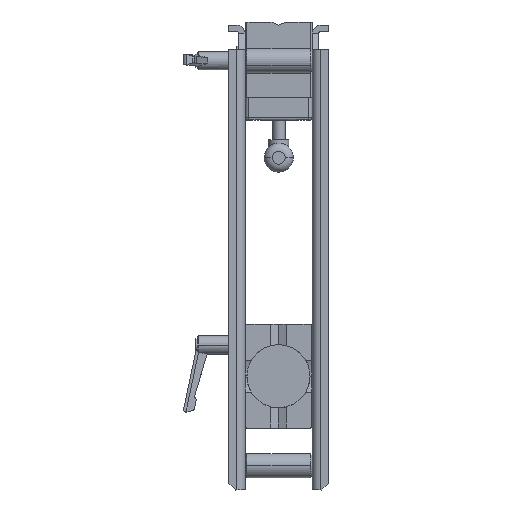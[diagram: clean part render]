
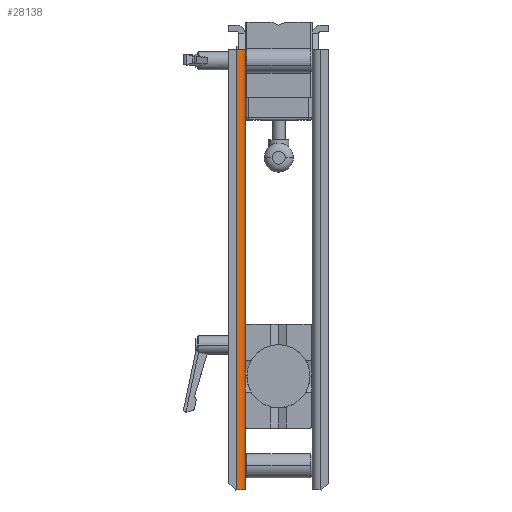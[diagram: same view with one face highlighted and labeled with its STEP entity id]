
A CAD part, left-side view. The second image highlights one B-rep face of the part: STEP entity #28138.
In plain terms, the highlighted cylindrical face has radius 5 mm (diameter 10 mm), a partial arc.
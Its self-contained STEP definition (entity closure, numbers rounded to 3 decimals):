
#6843 = CARTESIAN_POINT ( 'NONE',  ( 0., 34.26, -15. ) ) ;
#7033 = CARTESIAN_POINT ( 'NONE',  ( 5., 29.26, -15. ) ) ;
#7341 = CARTESIAN_POINT ( 'NONE',  ( 5., 29.26, -287. ) ) ;
#7349 = CIRCLE ( 'NONE', #30699, 5. ) ;
#7353 = CIRCLE ( 'NONE', #30654, 5. ) ;
#7358 = VECTOR ( 'NONE', #21739, 1000. ) ;
#7360 = LINE ( 'NONE', #20556, #7358 ) ;
#7513 = LINE ( 'NONE', #21434, #7519 ) ;
#7519 = VECTOR ( 'NONE', #21304, 1000. ) ;
#11008 = EDGE_CURVE ( 'NONE', #35142, #35300, #7349, .T. ) ;
#11011 = EDGE_CURVE ( 'NONE', #34421, #34616, #7353, .T. ) ;
#11019 = EDGE_CURVE ( 'NONE', #35300, #34421, #7360, .T. ) ;
#11126 = EDGE_CURVE ( 'NONE', #34616, #35142, #7513, .T. ) ;
#20556 = CARTESIAN_POINT ( 'NONE',  ( 0., 34.26, -15. ) ) ;
#20801 = CARTESIAN_POINT ( 'NONE',  ( 5., 34.26, -287. ) ) ;
#20965 = DIRECTION ( 'NONE',  ( 1., 0., 0. ) ) ;
#21096 = DIRECTION ( 'NONE',  ( 1., 0., 0. ) ) ;
#21119 = DIRECTION ( 'NONE',  ( 0., 0., 1. ) ) ;
#21122 = DIRECTION ( 'NONE',  ( 0., 0., -1. ) ) ;
#21304 = DIRECTION ( 'NONE',  ( 0., 0., -1. ) ) ;
#21434 = CARTESIAN_POINT ( 'NONE',  ( 5., 29.26, -287. ) ) ;
#21511 = CARTESIAN_POINT ( 'NONE',  ( 5., 34.26, -15. ) ) ;
#21739 = DIRECTION ( 'NONE',  ( 0., 0., 1. ) ) ;
#26796 = EDGE_LOOP ( 'NONE', ( #38361, #38362, #38363, #38364 ) ) ;
#28138 = ADVANCED_FACE ( 'NONE', ( #41162 ), #41178, .T. ) ;
#30654 = AXIS2_PLACEMENT_3D ( 'NONE', #21511, #21119, #20965 ) ;
#30699 = AXIS2_PLACEMENT_3D ( 'NONE', #20801, #21122, #21096 ) ;
#34421 = VERTEX_POINT ( 'NONE', #6843 ) ;
#34616 = VERTEX_POINT ( 'NONE', #7033 ) ;
#35142 = VERTEX_POINT ( 'NONE', #7341 ) ;
#35300 = VERTEX_POINT ( 'NONE', #44692 ) ;
#36043 = AXIS2_PLACEMENT_3D ( 'NONE', #43098, #43099, #43092 ) ;
#38361 = ORIENTED_EDGE ( 'NONE', *, *, #11008, .F. ) ;
#38362 = ORIENTED_EDGE ( 'NONE', *, *, #11126, .F. ) ;
#38363 = ORIENTED_EDGE ( 'NONE', *, *, #11011, .F. ) ;
#38364 = ORIENTED_EDGE ( 'NONE', *, *, #11019, .F. ) ;
#41162 = FACE_OUTER_BOUND ( 'NONE', #26796, .T. ) ;
#41178 = CYLINDRICAL_SURFACE ( 'NONE', #36043, 5. ) ;
#43092 = DIRECTION ( 'NONE',  ( 1., 0., 0. ) ) ;
#43098 = CARTESIAN_POINT ( 'NONE',  ( 5., 34.26, -287. ) ) ;
#43099 = DIRECTION ( 'NONE',  ( 0., 0., -1. ) ) ;
#44692 = CARTESIAN_POINT ( 'NONE',  ( 0., 34.26, -287. ) ) ;
